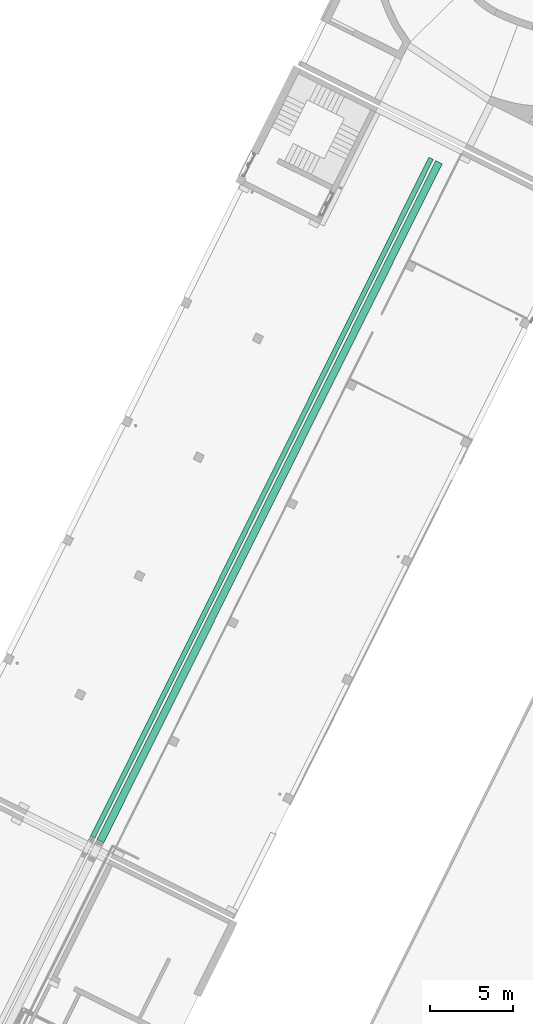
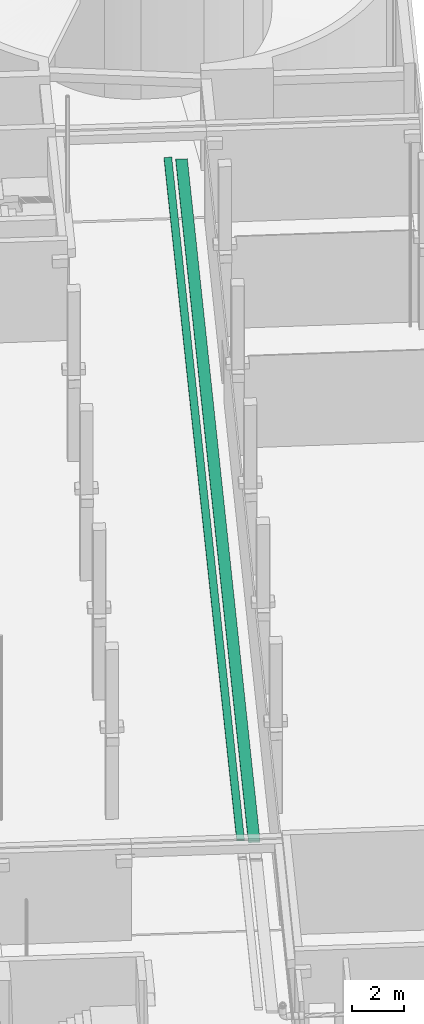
# One storey, part 66 of 91: 2 flow segments.
"""IFC2X3 building model written with IfcOpenShell, lengths in metres."""

from ifc_helpers import new_model, entity, si_unit, converted_unit, derived_unit, direction, frame, frame_2d, origin, place, context, subcontext, project, spatial, rectangle, extrude, type_object, element, save


model = new_model("IFC2X3")

# Units and contexts
model_context = context("Model", 3, precision=1e-05, world=origin(), true_north=direction((0.894925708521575, 0.446215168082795)))
context_of_model = context(None, 3, precision=1e-05, world=origin(), true_north=direction((0.894925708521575, 0.446215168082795)))
body_context = subcontext(model_context, "Body", "Model", "MODEL_VIEW")
ifc_project = project(units=[si_unit("LENGTHUNIT", "METRE"), si_unit("AREAUNIT", "SQUARE_METRE"), si_unit("VOLUMEUNIT", "CUBIC_METRE"), converted_unit("PLANEANGLEUNIT", "DEGREE", entity("IfcRatioMeasure", 0.0174532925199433), si_unit("PLANEANGLEUNIT", "RADIAN"), dimensions=[0, 0, 0, 0, 0, 0, 0]), si_unit("MASSUNIT", "GRAM", prefix="KILO"), si_unit("TIMEUNIT", "SECOND"), si_unit("FREQUENCYUNIT", "HERTZ"), si_unit("THERMODYNAMICTEMPERATUREUNIT", "DEGREE_CELSIUS"), derived_unit("THERMALTRANSMITTANCEUNIT", [(si_unit("MASSUNIT", "GRAM", prefix="KILO"), 1), (si_unit("THERMODYNAMICTEMPERATUREUNIT", "KELVIN"), -1), (si_unit("TIMEUNIT", "SECOND"), -3)]), derived_unit("VOLUMETRICFLOWRATEUNIT", [(si_unit("LENGTHUNIT", "METRE"), 3), (si_unit("TIMEUNIT", "SECOND"), -1)]), si_unit("ELECTRICCURRENTUNIT", "AMPERE"), si_unit("ELECTRICVOLTAGEUNIT", "VOLT"), si_unit("POWERUNIT", "WATT"), si_unit("FORCEUNIT", "NEWTON", prefix="KILO"), si_unit("ILLUMINANCEUNIT", "LUX"), si_unit("LUMINOUSFLUXUNIT", "LUMEN"), si_unit("LUMINOUSINTENSITYUNIT", "CANDELA"), si_unit("PRESSUREUNIT", "PASCAL")], contexts=[model_context, context_of_model])

# Site, building, storey
site_placement = place(None, frame((218.228324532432, 584.720189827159, 0.0), z_axis=(0.0, 0.0, 1.0), x_axis=(0.446215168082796, 0.894925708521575, 0.0)))
site = spatial("IfcSite", under=ifc_project, at=site_placement, Name="Default", CompositionType="ELEMENT")
building_placement = place(site_placement, origin())
building = spatial("IfcBuilding", under=site, at=building_placement, CompositionType="ELEMENT")
storey_placement = place(building_placement, origin())
storey = spatial("IfcBuildingStorey", under=building, at=storey_placement, Name="0 - Piano Terra", CompositionType="ELEMENT", Elevation=0.0)

# Flow segments
cable_carrier_segment_type = type_object("IfcCableCarrierSegmentType", Name="Passerella con raccordi:Passerella canale", PredefinedType="NOTDEFINED")
flow_segment_1_placement = place(storey_placement, frame((11.8137654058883, -3.6010789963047, 3.76249999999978)))
element("IfcFlowSegment", 1, at=flow_segment_1_placement, inside=storey, type_object=cable_carrier_segment_type, Name="Passerella con raccordi:Passerella canale", ObjectType="Passerella con raccordi:Passerella canale", context=body_context, shape_type="SweptSolid", body=[
    extrude(rectangle(XDim=45.7221715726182, YDim=0.3, at=frame_2d((-5.32907051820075e-15, 0.0), x_axis=(1.0, 0.0))), frame((22.8610857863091, 0.150000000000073, 0.0)), (0.0, 0.0, 1.0), 0.0750000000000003),
])
flow_segment_2_placement = place(storey_placement, frame((11.8137654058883, -4.2010789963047, 3.66249999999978)))
element("IfcFlowSegment", 2, at=flow_segment_2_placement, inside=storey, type_object=cable_carrier_segment_type, Name="Passerella con raccordi:Passerella canale", ObjectType="Passerella con raccordi:Passerella canale", context=body_context, shape_type="SweptSolid", body=[
    extrude(rectangle(XDim=45.7221715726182, YDim=0.45, at=frame_2d((-5.32907051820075e-15, 0.0), x_axis=(1.0, 0.0))), frame((22.8610857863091, 0.225000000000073, 0.0)), (0.0, 0.0, 1.0), 0.0750000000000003),
])

save(model, "model.ifc")
